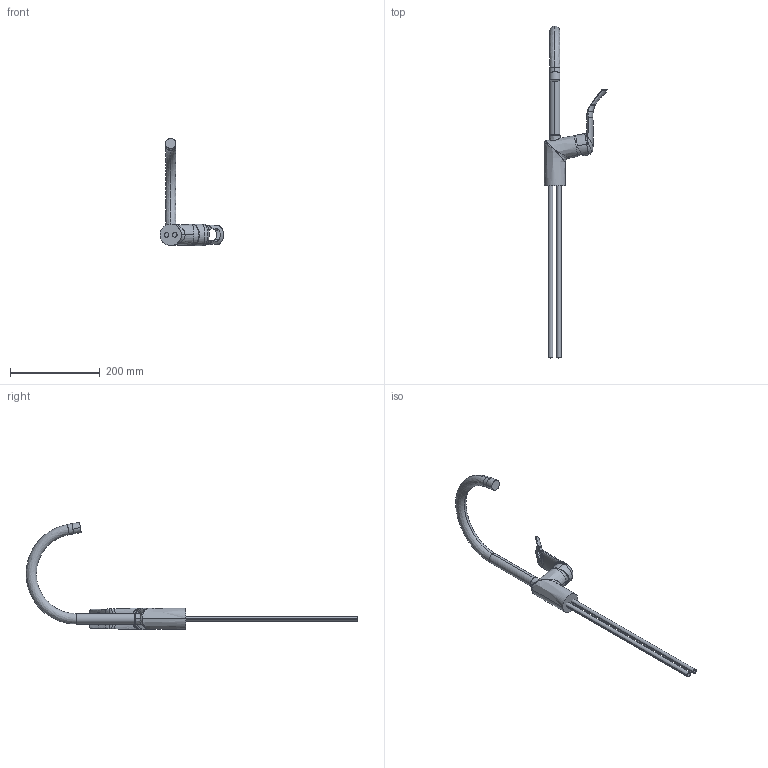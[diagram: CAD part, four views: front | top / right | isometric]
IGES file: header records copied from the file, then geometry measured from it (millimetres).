
Start section:  PTC IGES file: 60078_web.igs
Global section: file name: 60078_web.igs; native system: Creo Parametric by PTC Inc.; preprocessor: 2017380; author: jaj; organization: Unknown; date: 20180705.151452; units: millimetre
Bounding box: 141.45 x 737.65 x 238.56 mm (x, y, z)
Surface area: 127171.5 mm2 (no closed solid volume)
Topology: 0 solids, 0 shells, 82 faces, 526 edges, 574 vertices
Faces by surface type: bspline 43, revolution 39
